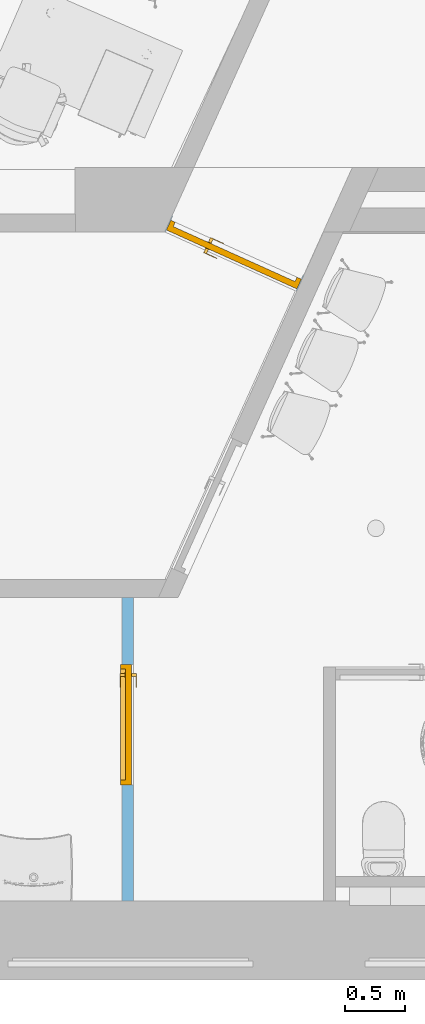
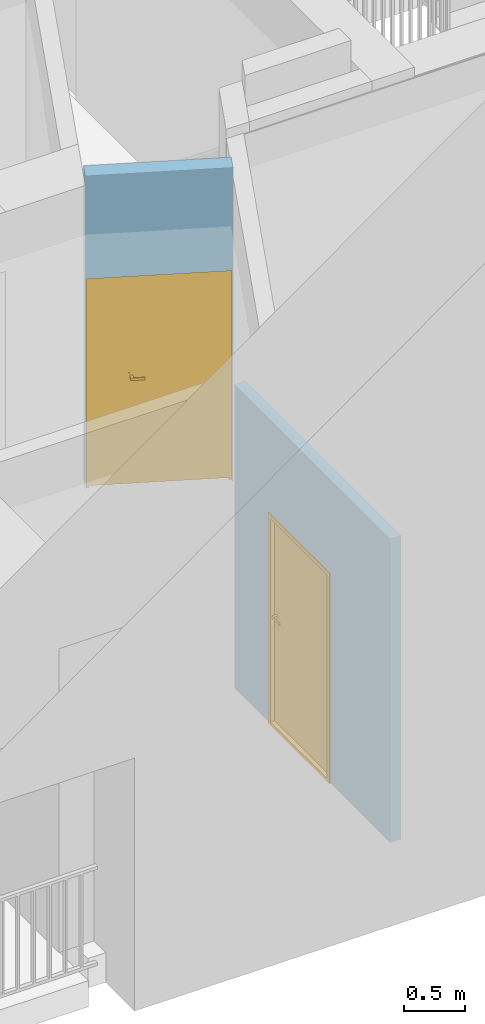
# One storey, part 14 of 25: 2 doors, 2 openings, plus 2 elements that do not belong to this part.
"""IFC2X3 building model written with IfcOpenShell, lengths in millimetres."""

from ifc_helpers import new_model, entity, si_unit, converted_unit, derived_unit, direction, frame, frame_2d, origin, place, context, subcontext, project, spatial, polyline, rectangle, extrude, clip, bounded_halfspace, faceted_brep, source, transform, mapped, material, material_list, layer, layer_set, layer_usage, type_object, type_shapes, element, fill, save


model = new_model("IFC2X3")

# Units and contexts
model_context = context("Model", 3, precision=0.01, world=origin(), true_north=direction((6.12303176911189e-17, 1.0)))
context_of_model = context(None, 3, precision=0.01, world=origin(), true_north=direction((6.12303176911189e-17, 1.0)))
body_context = subcontext(model_context, "Body", "Model", "MODEL_VIEW")
ifc_project = project(units=[si_unit("LENGTHUNIT", "METRE", prefix="MILLI"), si_unit("AREAUNIT", "SQUARE_METRE"), si_unit("VOLUMEUNIT", "CUBIC_METRE"), converted_unit("PLANEANGLEUNIT", "DEGREE", entity("IfcRatioMeasure", 0.0174532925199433), si_unit("PLANEANGLEUNIT", "RADIAN"), dimensions=[0, 0, 0, 0, 0, 0, 0]), si_unit("MASSUNIT", "GRAM", prefix="KILO"), derived_unit("MASSDENSITYUNIT", [(si_unit("MASSUNIT", "GRAM", prefix="KILO"), 1), (si_unit("LENGTHUNIT", "METRE"), -3)]), si_unit("TIMEUNIT", "SECOND"), si_unit("FREQUENCYUNIT", "HERTZ"), si_unit("THERMODYNAMICTEMPERATUREUNIT", "DEGREE_CELSIUS"), derived_unit("THERMALTRANSMITTANCEUNIT", [(si_unit("MASSUNIT", "GRAM", prefix="KILO"), 1), (si_unit("THERMODYNAMICTEMPERATUREUNIT", "KELVIN"), -1), (si_unit("TIMEUNIT", "SECOND"), -3)]), derived_unit("VOLUMETRICFLOWRATEUNIT", [(si_unit("LENGTHUNIT", "METRE"), 3), (si_unit("TIMEUNIT", "SECOND"), -1)]), si_unit("ELECTRICCURRENTUNIT", "AMPERE"), si_unit("ELECTRICVOLTAGEUNIT", "VOLT"), si_unit("POWERUNIT", "WATT"), si_unit("FORCEUNIT", "NEWTON", prefix="KILO"), si_unit("ILLUMINANCEUNIT", "LUX"), si_unit("LUMINOUSFLUXUNIT", "LUMEN"), si_unit("LUMINOUSINTENSITYUNIT", "CANDELA"), derived_unit("USERDEFINED", [(si_unit("MASSUNIT", "GRAM", prefix="KILO"), -1), (si_unit("LENGTHUNIT", "METRE"), -2), (si_unit("TIMEUNIT", "SECOND"), 3), (si_unit("LUMINOUSFLUXUNIT", "LUMEN"), 1)]), derived_unit("LINEARVELOCITYUNIT", [(si_unit("LENGTHUNIT", "METRE"), 1), (si_unit("TIMEUNIT", "SECOND"), -1)]), si_unit("PRESSUREUNIT", "PASCAL"), derived_unit("USERDEFINED", [(si_unit("LENGTHUNIT", "METRE"), -2), (si_unit("MASSUNIT", "GRAM", prefix="KILO"), 1), (si_unit("TIMEUNIT", "SECOND"), -2)])], contexts=[model_context, context_of_model])

# Site, building, storey
site_placement = place(None, frame((121442.264707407, 135347.995453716, -1800.0)))
site = spatial("IfcSite", under=ifc_project, at=site_placement, Name="Surface", CompositionType="ELEMENT")
building_placement = place(site_placement, origin())
building = spatial("IfcBuilding", under=site, at=building_placement, CompositionType="ELEMENT")
storey_placement = place(building_placement, frame((0.0, 0.0, 1800.0)))
storey = spatial("IfcBuildingStorey", under=building, at=storey_placement, Name="1 korrus", CompositionType="ELEMENT", Elevation=1800.00000000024)

# Wall, opening, door
ifc_material_1 = material(Name="Plaster")
ifc_layer_1 = layer(ifc_material_1, 10.0)
ifc_material_2 = material(Name="EST. Müüritis. Väikeplokk. Kergkruusplokk")
ifc_layer_2 = layer(ifc_material_2, 130.0)
ifc_layer_3 = layer(ifc_material_1, 10.0)
ifc_layer_set_1 = layer_set([ifc_layer_1, ifc_layer_2, ifc_layer_3], Name="Basic Wall:15_FIBO")
ifc_layer_usage_1 = layer_usage(ifc_layer_set_1, "AXIS2", "POSITIVE", -75.0)
wall_type_1 = type_object("IfcWallType", Name="Basic Wall:15_FIBO", PredefinedType="STANDARD", material=ifc_layer_set_1)
wall_1_placement = place(storey_placement, frame((-112367.790791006, -127472.576071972, 0.0), z_axis=(0.0, 0.0, 1.0), x_axis=(0.911440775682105, -0.411431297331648, 0.0)))
wall_1 = element("IfcWallStandardCase", 1, at=wall_1_placement, inside=storey, type_object=wall_type_1, material=ifc_layer_usage_1, Name="Basic Wall:15_FIBO", ObjectType="Basic Wall:15_FIBO", context=body_context, shape_type="SweptSolid", body=[
    extrude(rectangle(XDim=1212.97108583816, YDim=149.999999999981, at=frame_2d((606.485542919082, 4.2632564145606e-14), x_axis=(-1.0, 0.0))), origin(), (0.0, 0.0, 1.0), 3125.0),
])
opening_1_placement = place(wall_1_placement, frame((1206.48554291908, 75.0, 0.0)))
opening_1 = element("IfcOpeningElement", 2, at=opening_1_placement, cuts=wall_1, Name="sma_D02:1200 x 2100mm SU-7 Liigendiga siseuks:1", ObjectType="Opening", context=body_context, shape_type="SweptSolid", body=[
    extrude(rectangle(XDim=2099.99999999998, YDim=1200.0, at=frame_2d((1049.99999999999, 600.0), x_axis=(1.0, 0.0))), frame((0.0, 0.0, 0.0), z_axis=(0.0, -1.0, 0.0), x_axis=(0.0, 0.0, 1.0)), (0.0, 0.0, 1.0), 150.0),
])
ifc_material_3 = material(Name="Metal - Aluminium")
door_style_1 = type_object("IfcDoorStyle", Name="1200 x 2100mm SU-7 Liigendiga siseuks", ConstructionType="USERDEFINED", OperationType="NOTDEFINED", ParameterTakesPrecedence=False, Sizeable=False, material=ifc_material_3)
shared_shape_1 = source(origin(), body_context, "Body", "Brep", [
    faceted_brep([(745.260051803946, 40.0, 1100.0), (650.260051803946, 40.0, 1100.0), (650.260051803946, 35.0, 1100.0), (770.260051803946, 35.0, 1100.0), (770.260051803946, 78.0, 1100.0), (745.260051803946, 78.0, 1100.0), (745.260051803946, 40.0, 1075.0), (745.260051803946, 78.0, 1075.0), (770.260051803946, 78.0, 1075.0), (770.260051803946, 35.0, 1075.0), (650.260051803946, 35.0, 1075.0), (650.260051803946, 40.0, 1075.0)], [[[0, 1, 2, 3, 4, 5]], [[6, 7, 8, 9, 10, 11]], [[5, 7, 6, 0]], [[4, 8, 7, 5]], [[3, 9, 8, 4]], [[2, 10, 9, 3]], [[1, 11, 10, 2]], [[0, 6, 11, 1]]]),
    faceted_brep([(732.760051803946, 78.0, 1125.0), (782.760051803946, 78.0, 1125.0), (782.760051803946, 80.0, 1125.0), (732.760051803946, 80.0, 1125.0), (732.760051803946, 78.0, 1005.0), (732.760051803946, 80.0, 1005.0), (782.760051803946, 80.0, 1005.0), (782.760051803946, 78.0, 1005.0)], [[[0, 1, 2, 3]], [[4, 5, 6, 7]], [[3, 5, 4, 0]], [[2, 6, 5, 3]], [[1, 7, 6, 2]], [[0, 4, 7, 1]]]),
    faceted_brep([(745.260051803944, 170.432966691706, 1100.0), (745.260051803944, 132.432966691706, 1100.0), (770.260051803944, 132.432966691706, 1100.0), (770.260051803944, 175.432966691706, 1100.0), (650.260051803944, 175.432966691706, 1100.0), (650.260051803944, 170.432966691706, 1100.0), (745.260051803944, 170.432966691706, 1075.0), (650.260051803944, 170.432966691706, 1075.0), (650.260051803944, 175.432966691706, 1075.0), (770.260051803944, 175.432966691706, 1075.0), (770.260051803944, 132.432966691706, 1075.0), (745.260051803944, 132.432966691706, 1075.0)], [[[0, 1, 2, 3, 4, 5]], [[6, 7, 8, 9, 10, 11]], [[1, 0, 6, 11]], [[2, 1, 11, 10]], [[3, 2, 10, 9]], [[4, 3, 9, 8]], [[5, 4, 8, 7]], [[0, 5, 7, 6]]]),
    faceted_brep([(732.760051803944, 132.432966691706, 1125.0), (732.760051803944, 130.432966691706, 1125.0), (782.760051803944, 130.432966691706, 1125.0), (782.760051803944, 132.432966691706, 1125.0), (732.760051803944, 132.432966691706, 1005.0), (782.760051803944, 132.432966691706, 1005.0), (782.760051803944, 130.432966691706, 1005.0), (732.760051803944, 130.432966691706, 1005.0)], [[[0, 1, 2, 3]], [[4, 5, 6, 7]], [[1, 0, 4, 7]], [[2, 1, 7, 6]], [[3, 2, 6, 5]], [[0, 3, 5, 4]]]),
    faceted_brep([(-67.2399481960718, 40.4329666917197, 0.0), (-67.2399481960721, 130.43296669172, 0.0), (-42.2399481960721, 130.43296669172, 0.0), (-42.239948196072, 80.4329666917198, 0.0), (-27.2399481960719, 80.4329666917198, 0.0), (-27.2399481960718, 40.4329666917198, 0.0), (-27.2399481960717, 40.4329666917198, 2060.0), (1092.76005180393, 40.4329666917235, 2060.0), (1092.76005180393, 40.4329666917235, 0.0), (1132.76005180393, 40.4329666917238, 0.0), (1132.76005180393, 40.4329666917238, 2100.0), (-67.2399481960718, 40.4329666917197, 2100.0), (-27.2399481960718, 80.4329666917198, 2060.0), (-42.2399481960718, 80.4329666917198, 2075.0), (1107.76005180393, 80.4329666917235, 2075.0), (1107.76005180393, 80.4329666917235, 0.0), (1092.76005180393, 80.4329666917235, 0.0), (1092.76005180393, 80.4329666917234, 2060.0), (-42.239948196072, 130.43296669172, 2075.0), (-67.2399481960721, 130.43296669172, 2100.0), (1132.76005180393, 130.432966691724, 2100.0), (1132.76005180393, 130.432966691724, 0.0), (1107.76005180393, 130.432966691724, 0.0), (1107.76005180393, 130.432966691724, 2075.0)], [[[0, 1, 2, 3, 4, 5]], [[5, 6, 7, 8, 9, 10, 11, 0]], [[4, 12, 6, 5]], [[3, 13, 14, 15, 16, 17, 12, 4]], [[2, 18, 13, 3]], [[1, 19, 20, 21, 22, 23, 18, 2]], [[0, 11, 19, 1]], [[10, 9, 21, 20]], [[9, 8, 16, 15, 22, 21]], [[17, 16, 8, 7]], [[23, 22, 15, 14]], [[12, 17, 7, 6]], [[18, 23, 14, 13]], [[11, 10, 20, 19]]]),
    faceted_brep([(1107.76005180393, 80.4329666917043, 20.0), (1107.76005180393, 80.4329666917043, 2075.0), (832.760051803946, 80.4329666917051, 2075.0), (832.760051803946, 80.4329666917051, 20.0), (1107.76005180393, 130.432966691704, 20.0), (832.760051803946, 130.432966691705, 20.0), (832.760051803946, 130.432966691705, 2075.0), (1107.76005180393, 130.432966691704, 2075.0)], [[[0, 1, 2, 3]], [[4, 5, 6, 7]], [[3, 5, 4, 0]], [[2, 6, 5, 3]], [[1, 7, 6, 2]], [[0, 4, 7, 1]]]),
    faceted_brep([(832.760051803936, 80.4329666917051, 2075.0), (-42.2399481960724, 80.4329666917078, 2075.0), (-42.2399481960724, 80.4329666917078, 20.0), (832.760051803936, 80.4329666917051, 20.0), (832.760051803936, 130.432966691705, 2075.0), (832.760051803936, 130.432966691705, 20.0), (-42.2399481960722, 130.432966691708, 20.0), (-42.2399481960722, 130.432966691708, 2075.0)], [[[0, 1, 2, 3]], [[4, 5, 6, 7]], [[3, 5, 4, 0]], [[2, 6, 5, 3]], [[1, 7, 6, 2]], [[0, 4, 7, 1]]]),
])
type_shapes(door_style_1, [shared_shape_1])
door_1_placement = place(opening_1_placement, frame((-67.2399481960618, 0.0, 0.0), z_axis=(0.0, 0.0, 1.0), x_axis=(-1.0, 0.0, 0.0)))
door_1 = element("IfcDoor", 3, at=door_1_placement, inside=storey, type_object=door_style_1, material=ifc_material_3, Name="sma_D02:1200 x 2100mm SU-7 Liigendiga siseuks", ObjectType="1200 x 2100mm SU-7 Liigendiga siseuks", OverallHeight=2099.99999999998, OverallWidth=1200.0, context=body_context, shape_type="MappedRepresentation", body=[
    mapped(shared_shape_1, transform((0.0, 0.0, 0.0), scale=1.0)),
])
fill(opening_1, door_1)

ifc_layer_4 = layer(ifc_material_1, 5.0)
ifc_material_4 = material(Name="CMU, Lightweight")
ifc_layer_5 = layer(ifc_material_4, 90.0)
ifc_layer_6 = layer(ifc_material_1, 5.0)
ifc_layer_set_2 = layer_set([ifc_layer_4, ifc_layer_5, ifc_layer_6], Name="Basic Wall:10_FIBO + 2xKROHV")
ifc_layer_usage_2 = layer_usage(ifc_layer_set_2, "AXIS2", "POSITIVE", -50.0)
wall_type_2 = type_object("IfcWallType", Name="Basic Wall:10_FIBO + 2xKROHV", PredefinedType="STANDARD", material=ifc_layer_set_2)
wall_2_placement = place(storey_placement, frame((-112709.010635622, -130606.464570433, 0.0), z_axis=(0.0, 0.0, 1.0), x_axis=(0.0, -1.0, 0.0)))
wall_2 = element("IfcWallStandardCase", 4, at=wall_2_placement, inside=storey, type_object=wall_type_2, material=ifc_layer_usage_2, Name="Basic Wall:10_FIBO + 2xKROHV", ObjectType="Basic Wall:10_FIBO + 2xKROHV", context=body_context, shape_type="Clipping", body=[
    clip(extrude(rectangle(XDim=2544.46259553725, YDim=100.000000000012, at=frame_2d((1272.23129776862, 0.0), x_axis=(-1.0, 0.0))), origin(), (0.0, 0.0, 1.0), 3032.0), bounded_halfspace(frame((0.0, -50.0, 3032.0), z_axis=(0.0, 0.0, -1.0), x_axis=(1.0, 0.0, 0.0)), True, frame((0.0, -50.0, 3032.0)), polyline([(0.0, 0.0), (2544.46259553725, 0.0), (2544.46259553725, 100.0), (0.0, 100.0), (0.0, 0.0)]))),
])
opening_2_placement = place(wall_2_placement, frame((560.0, -50.0, 0.0)))
opening_2 = element("IfcOpeningElement", 5, at=opening_2_placement, cuts=wall_2, Name="sma_D01:1010 x 2110_SU-05 Siseuks:1", ObjectType="Opening", context=body_context, shape_type="SweptSolid", body=[
    extrude(rectangle(XDim=2099.99999999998, YDim=1010.0, at=frame_2d((1049.99999999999, 505.0), x_axis=(1.0, 0.0))), frame((0.0, 0.0, 0.0), z_axis=(0.0, 1.0, 0.0), x_axis=(0.0, 0.0, 1.0)), (0.0, 0.0, 1.0), 100.0),
])
ifc_material_5 = material(Name="Door - Panel_valge")
ifc_material_list_1 = material_list([ifc_material_3, ifc_material_5])
ifc_material_list_2 = material_list([ifc_material_3, ifc_material_5])
door_style_2 = type_object("IfcDoorStyle", Name="1010 x 2110_SU-05 Siseuks", ConstructionType="NOTDEFINED", OperationType="SINGLE_SWING_RIGHT", ParameterTakesPrecedence=False, Sizeable=False, material=ifc_material_list_2)
shared_shape_2 = source(origin(), body_context, "Body", "Brep", [
    faceted_brep([(100.0, -10.0, 1112.5), (100.0, 28.0, 1112.5), (75.0, 28.0, 1112.5), (75.0, -15.0, 1112.5), (195.0, -15.0, 1112.5), (195.0, -10.0, 1112.5), (100.0, -10.0, 1087.5), (195.0, -10.0, 1087.5), (195.0, -15.0, 1087.5), (75.0, -15.0, 1087.5), (75.0, 28.0, 1087.5), (100.0, 28.0, 1087.5)], [[[0, 1, 2, 3, 4, 5]], [[6, 7, 8, 9, 10, 11]], [[1, 0, 6, 11]], [[2, 1, 11, 10]], [[3, 2, 10, 9]], [[4, 3, 9, 8]], [[5, 4, 8, 7]], [[0, 5, 7, 6]]]),
    faceted_brep([(112.499999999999, 28.0, 1137.5), (112.499999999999, 30.0, 1137.5), (62.4999999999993, 30.0, 1137.5), (62.4999999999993, 28.0, 1137.5), (112.499999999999, 28.0, 1017.5), (62.4999999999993, 28.0, 1017.5), (62.4999999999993, 30.0, 1017.5), (112.499999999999, 30.0, 1017.5)], [[[0, 1, 2, 3]], [[4, 5, 6, 7]], [[1, 0, 4, 7]], [[2, 1, 7, 6]], [[3, 2, 6, 5]], [[0, 3, 5, 4]]]),
    faceted_brep([(100.0, 120.0, 1112.5), (195.0, 120.0, 1112.5), (195.0, 125.0, 1112.5), (75.0, 125.0, 1112.5), (75.0, 82.0, 1112.5), (100.0, 82.0, 1112.5), (100.0, 120.0, 1087.5), (100.0, 82.0, 1087.5), (75.0, 82.0, 1087.5), (75.0, 125.0, 1087.5), (195.0, 125.0, 1087.5), (195.0, 120.0, 1087.5)], [[[0, 1, 2, 3, 4, 5]], [[6, 7, 8, 9, 10, 11]], [[5, 7, 6, 0]], [[4, 8, 7, 5]], [[3, 9, 8, 4]], [[2, 10, 9, 3]], [[1, 11, 10, 2]], [[0, 6, 11, 1]]]),
    faceted_brep([(112.499999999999, 82.0, 1137.5), (62.4999999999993, 82.0, 1137.5), (62.4999999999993, 80.0, 1137.5), (112.499999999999, 80.0, 1137.5), (112.499999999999, 82.0, 1017.5), (112.499999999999, 80.0, 1017.5), (62.4999999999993, 80.0, 1017.5), (62.4999999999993, 82.0, 1017.5)], [[[0, 1, 2, 3]], [[4, 5, 6, 7]], [[3, 5, 4, 0]], [[2, 6, 5, 3]], [[1, 7, 6, 2]], [[0, 4, 7, 1]]]),
    faceted_brep([(1010.0, -10.0, 0.0), (970.0, -10.0, 0.0), (970.0, 30.0, 0.0), (985.0, 30.0, 0.0), (985.0, 80.0, 0.0), (1010.0, 80.0, 0.0), (1010.0, -10.0, 2100.0), (0.0, -10.0, 2100.0), (0.0, -10.0, 0.0), (40.0, -10.0, 0.0), (40.0, -10.0, 2060.0), (970.0, -10.0, 2060.0), (970.0, 30.0, 2060.0), (40.0, 30.0, 2060.0), (40.0, 30.0, 0.0), (25.0, 30.0, 0.0), (25.0, 30.0, 2075.0), (985.0, 30.0, 2075.0), (985.0, 80.0, 2075.0), (25.0, 80.0, 2075.0), (25.0, 80.0, 0.0), (0.0, 80.0, 0.0), (0.0, 80.0, 2100.0), (1010.0, 80.0, 2100.0)], [[[0, 1, 2, 3, 4, 5]], [[1, 0, 6, 7, 8, 9, 10, 11]], [[2, 1, 11, 12]], [[3, 2, 12, 13, 14, 15, 16, 17]], [[4, 3, 17, 18]], [[5, 4, 18, 19, 20, 21, 22, 23]], [[0, 5, 23, 6]], [[7, 22, 21, 8]], [[8, 21, 20, 15, 14, 9]], [[13, 10, 9, 14]], [[19, 16, 15, 20]], [[12, 11, 10, 13]], [[18, 17, 16, 19]], [[6, 23, 22, 7]]]),
    faceted_brep([(25.0, 30.0, 2075.0), (25.0, 30.0, 20.0), (985.0, 30.0, 20.0), (985.0, 30.0, 2075.0), (25.0, 80.0, 2075.0), (985.0, 80.0, 2075.0), (985.0, 80.0, 20.0), (25.0, 80.0, 20.0)], [[[0, 1, 2, 3]], [[4, 5, 6, 7]], [[1, 0, 4, 7]], [[2, 1, 7, 6]], [[3, 2, 6, 5]], [[0, 3, 5, 4]]]),
    faceted_brep([(970.0, -10.0, 30.0), (970.0, -10.0, 0.0), (970.0, 30.0, 0.0), (970.0, 30.0, 20.0), (970.0, 30.0, 30.0), (40.0, -10.0, 30.0), (40.0, 30.0, 30.0), (40.0, 30.0, 20.0), (40.0, 30.0, 0.0), (40.0, -10.0, 0.0), (25.0, 30.0, 0.0), (25.0, 80.0, 0.0), (985.0, 80.0, 0.0), (985.0, 30.0, 0.0), (985.0, 80.0, 20.0), (985.0, 30.0, 20.0), (25.0, 80.0, 20.0), (25.0, 30.0, 20.0)], [[[0, 1, 2, 3, 4]], [[5, 6, 7, 8, 9]], [[1, 0, 5, 9]], [[2, 1, 9, 8, 10, 11, 12, 13]], [[6, 4, 3, 7]], [[0, 4, 6, 5]], [[14, 15, 13, 12]], [[16, 11, 10, 17]], [[15, 14, 16, 17, 7, 3]], [[13, 15, 3, 2]], [[14, 12, 11, 16]], [[17, 10, 8, 7]]]),
])
type_shapes(door_style_2, [shared_shape_2])
door_2_placement = place(opening_2_placement, origin())
door_2 = element("IfcDoor", 6, at=door_2_placement, inside=storey, type_object=door_style_2, material=ifc_material_list_1, Name="sma_D01:1010 x 2110_SU-05 Siseuks", ObjectType="1010 x 2110_SU-05 Siseuks", OverallHeight=2099.99999999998, OverallWidth=1010.0, context=body_context, shape_type="MappedRepresentation", body=[
    mapped(shared_shape_2, transform((0.0, 0.0, 0.0), scale=1.0)),
])
fill(opening_2, door_2)

save(model, "model.ifc")
